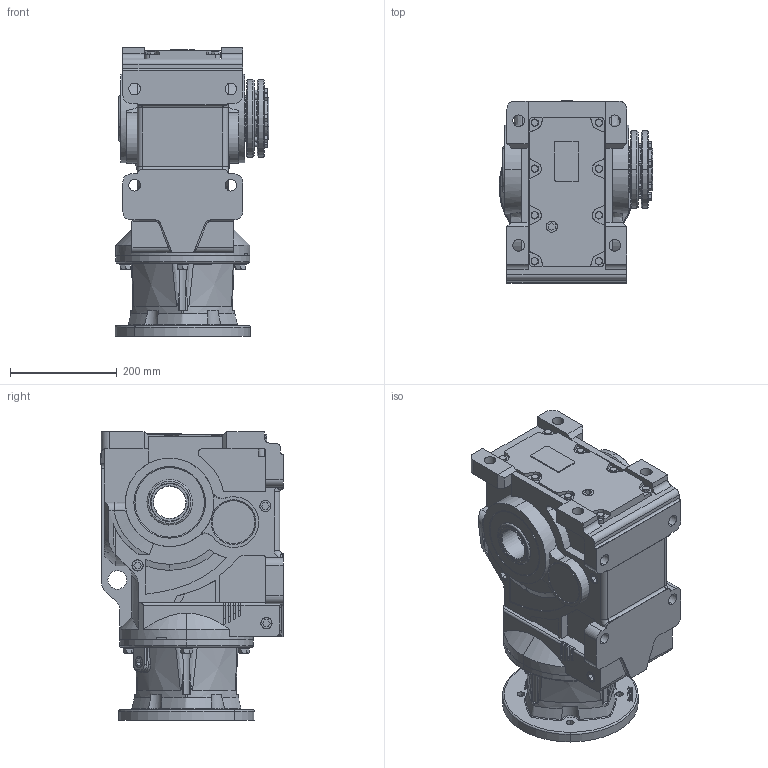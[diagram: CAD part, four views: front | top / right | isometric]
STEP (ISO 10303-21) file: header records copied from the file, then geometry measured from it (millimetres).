
FILE_DESCRIPTION (( 'STEP AP203' ), '1' );
FILE_NAME ('KHN87-254TC-A-POWER LOCK.STEP', '2020-12-04T06:18:19', ( 'Microsoft' ), ( 'Microsoft' ), 'SwSTEP 2.0', 'SolidWorks 2012', '' );
FILE_SCHEMA (( 'CONFIG_CONTROL_DESIGN' ));
Products named in the file (1): KHN87-254TC-A-POWER LOCK
Bounding box: 287.52 x 340.5 x 539.5 mm (x, y, z)
Volume: 25649780.1 mm3; surface area: 1119938.1 mm2
Topology: 2 solids, 22 shells, 1579 faces, 4030 edges, 2577 vertices
Faces by surface type: plane 701, cylinder 397, cone 282, bspline 142, torus 57
Entity records: 59268 total; most frequent: CARTESIAN_POINT 21708, ORIENTED_EDGE 7992, DIRECTION 7469, EDGE_CURVE 3996, AXIS2_PLACEMENT_3D 2701, VERTEX_POINT 2577, VECTOR 2067, LINE 2067
